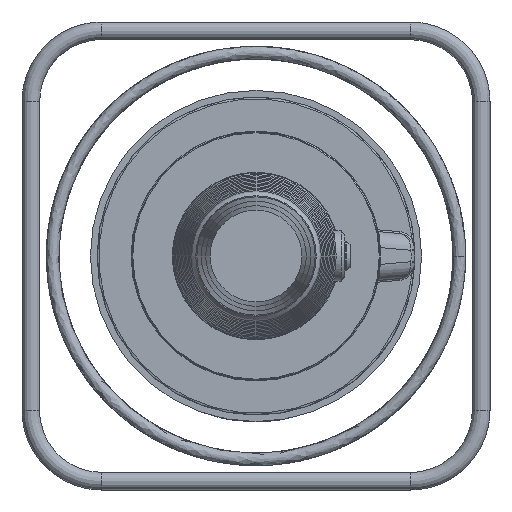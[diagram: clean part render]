
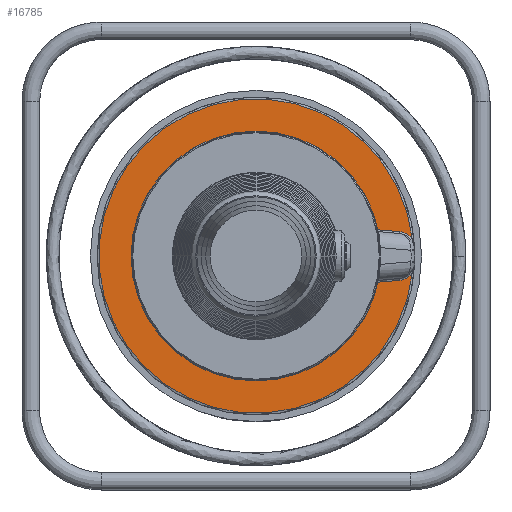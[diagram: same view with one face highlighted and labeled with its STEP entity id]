
A CAD part, left-side view. The second image highlights one B-rep face of the part: STEP entity #16785.
In plain terms, the highlighted planar face has unit normal (-1, 0, 0).
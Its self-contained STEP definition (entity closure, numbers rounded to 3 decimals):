
#1057=LINE('',#39950,#1982);
#1058=LINE('',#39957,#1983);
#1982=VECTOR('',#20889,49.309);
#1983=VECTOR('',#20896,49.309);
#2668=PLANE('',#17859);
#4644=FACE_OUTER_BOUND('',#5798,.T.);
#5798=EDGE_LOOP('',(#14737,#14738,#14739,#14740,#14741,#14742,#14743,#14744));
#6558=CIRCLE('',#17860,21.);
#6559=CIRCLE('',#17861,178.);
#6560=CIRCLE('',#17862,21.);
#6561=CIRCLE('',#17863,8.);
#6562=CIRCLE('',#17864,113.);
#6563=CIRCLE('',#17865,8.);
#8167=VERTEX_POINT('',#39942);
#8168=VERTEX_POINT('',#39943);
#8169=VERTEX_POINT('',#39945);
#8170=VERTEX_POINT('',#39947);
#8171=VERTEX_POINT('',#39949);
#8172=VERTEX_POINT('',#39951);
#8173=VERTEX_POINT('',#39953);
#8174=VERTEX_POINT('',#39955);
#10429=EDGE_CURVE('',#8167,#8168,#6558,.T.);
#10430=EDGE_CURVE('',#8169,#8167,#6559,.T.);
#10431=EDGE_CURVE('',#8170,#8169,#6560,.T.);
#10432=EDGE_CURVE('',#8171,#8170,#1057,.T.);
#10433=EDGE_CURVE('',#8172,#8171,#6561,.T.);
#10434=EDGE_CURVE('',#8173,#8172,#6562,.T.);
#10435=EDGE_CURVE('',#8174,#8173,#6563,.T.);
#10436=EDGE_CURVE('',#8168,#8174,#1058,.T.);
#14737=ORIENTED_EDGE('',*,*,#10429,.F.);
#14738=ORIENTED_EDGE('',*,*,#10430,.F.);
#14739=ORIENTED_EDGE('',*,*,#10431,.F.);
#14740=ORIENTED_EDGE('',*,*,#10432,.F.);
#14741=ORIENTED_EDGE('',*,*,#10433,.F.);
#14742=ORIENTED_EDGE('',*,*,#10434,.F.);
#14743=ORIENTED_EDGE('',*,*,#10435,.F.);
#14744=ORIENTED_EDGE('',*,*,#10436,.F.);
#16785=ADVANCED_FACE('',(#4644),#2668,.T.);
#17859=AXIS2_PLACEMENT_3D('',#39941,#20881,#20882);
#17860=AXIS2_PLACEMENT_3D('',#39944,#20883,#20884);
#17861=AXIS2_PLACEMENT_3D('',#39946,#20885,#20886);
#17862=AXIS2_PLACEMENT_3D('',#39948,#20887,#20888);
#17863=AXIS2_PLACEMENT_3D('',#39952,#20890,#20891);
#17864=AXIS2_PLACEMENT_3D('',#39954,#20892,#20893);
#17865=AXIS2_PLACEMENT_3D('',#39956,#20894,#20895);
#20881=DIRECTION('center_axis',(-1.,0.,0.));
#20882=DIRECTION('ref_axis',(0.,0.,-1.));
#20883=DIRECTION('center_axis',(-1.,0.,0.));
#20884=DIRECTION('ref_axis',(0.,-0.535,0.845));
#20885=DIRECTION('center_axis',(1.,0.,0.));
#20886=DIRECTION('ref_axis',(0.,1.,0.));
#20887=DIRECTION('center_axis',(-1.,0.,0.));
#20888=DIRECTION('ref_axis',(0.,-0.535,-0.845));
#20889=DIRECTION('',(0.,-0.996,0.087));
#20890=DIRECTION('center_axis',(1.,0.,0.));
#20891=DIRECTION('ref_axis',(0.,0.614,0.789));
#20892=DIRECTION('center_axis',(-1.,0.,0.));
#20893=DIRECTION('ref_axis',(0.,1.,0.));
#20894=DIRECTION('center_axis',(1.,0.,0.));
#20895=DIRECTION('ref_axis',(0.,0.614,-0.789));
#20896=DIRECTION('',(0.,0.996,0.087));
#39941=CARTESIAN_POINT('Origin',(-155.,179.,0.));
#39942=CARTESIAN_POINT('',(-155.,-176.847,20.223));
#39943=CARTESIAN_POINT('',(-155.,-162.695,27.522));
#39944=CARTESIAN_POINT('Origin',(-155.,-160.865,6.602));
#39945=CARTESIAN_POINT('',(-155.,-176.847,-20.223));
#39946=CARTESIAN_POINT('Origin',(-155.,0.,
0.));
#39947=CARTESIAN_POINT('',(-155.,-162.695,-27.522));
#39948=CARTESIAN_POINT('Origin',(-155.,-160.865,-6.602));
#39949=CARTESIAN_POINT('',(-155.,-113.574,-31.819));
#39950=CARTESIAN_POINT('',(-155.,20.898,-43.584));
#39951=CARTESIAN_POINT('',(-155.,-106.716,-37.158));
#39952=CARTESIAN_POINT('Origin',(-155.,-114.271,-39.789));
#39953=CARTESIAN_POINT('',(-155.,-106.716,37.158));
#39954=CARTESIAN_POINT('Origin',(-155.,0.,
0.));
#39955=CARTESIAN_POINT('',(-155.,-113.574,31.819));
#39956=CARTESIAN_POINT('Origin',(-155.,-114.271,39.789));
#39957=CARTESIAN_POINT('',(-155.,20.898,43.584));
